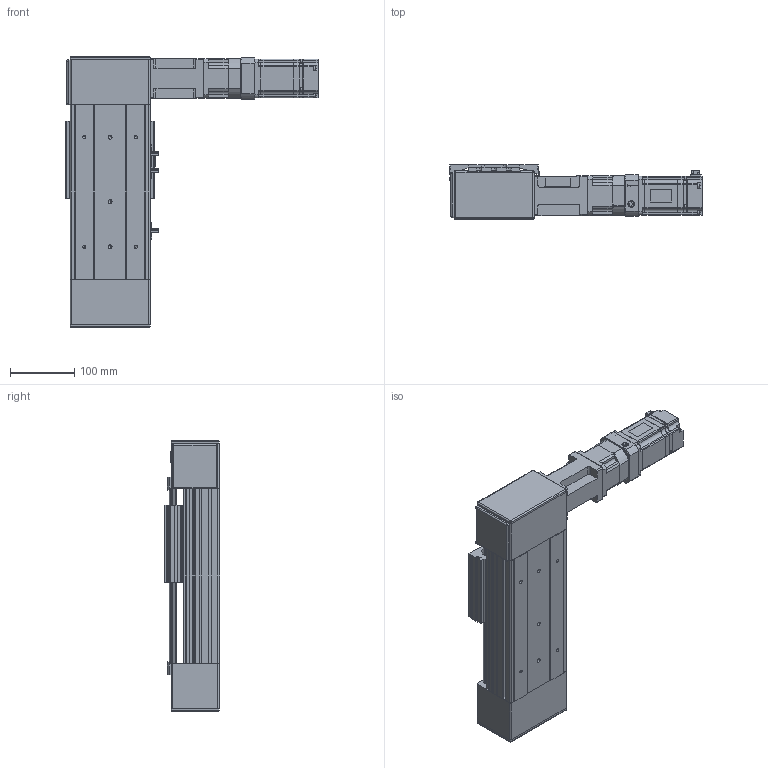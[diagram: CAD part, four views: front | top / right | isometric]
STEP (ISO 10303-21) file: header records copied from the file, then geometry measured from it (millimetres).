
FILE_DESCRIPTION (( 'STEP AP203' ), '1' );
FILE_NAME ('POB120SRN-0000-ST100-40NR00-N-I3R.STEP', '2015-10-08T01:31:18', ( '' ), ( '' ), 'SwSTEP 2.0', 'SolidWorks 2012', '' );
FILE_SCHEMA (( 'CONFIG_CONTROL_DESIGN' ));
Length unit declared in the file: millimetre
Products named in the file (11): POB120SRN-0000-ST100-40NR00-N-I3R; jc32c; PGX62-H-1_3; sgmjv_04a_a21; PCB120-Motor Bracket; PCB120-Idler Pulley Block; EE_SX672; POB120-Sensor Dog; POB120-100ST BASE; POB120-Carrier; PCB120-Drive Pulley Block S
Assembly tree (12 placements, depth 2):
  POB120SRN-0000-ST100-40NR00-N-I3R
    POB120-100ST BASE
    POB120-Carrier
    PCB120-Drive Pulley Block S
    PCB120-Idler Pulley Block
    EE_SX672  x3
    POB120-Sensor Dog
    PCB120-Motor Bracket
    PGX62-H-1_3
    jc32c
    sgmjv_04a_a21
Bounding box: 391.1 x 86 x 420 mm (x, y, z)
Volume: 4132366.3 mm3; surface area: 611909.7 mm2
Topology: 36 solids, 37 shells, 2013 faces, 5262 edges, 3375 vertices
Faces by surface type: plane 1107, cylinder 686, cone 168, bspline 40, sphere 12
Entity records: 61236 total; most frequent: CARTESIAN_POINT 13424, DIRECTION 9850, ORIENTED_EDGE 9624, EDGE_CURVE 4814, AXIS2_PLACEMENT_3D 3387, VERTEX_POINT 3127, LINE 3076, VECTOR 3076
